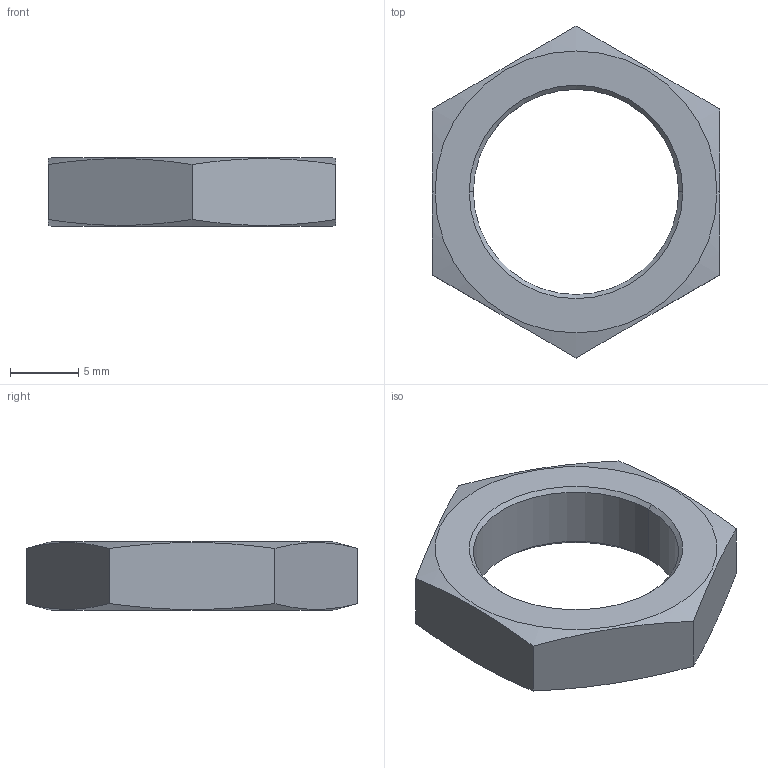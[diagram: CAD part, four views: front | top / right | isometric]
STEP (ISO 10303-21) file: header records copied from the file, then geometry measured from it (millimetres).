
FILE_DESCRIPTION (( 'STEP AP214' ), '1' );
FILE_NAME ('SC81.STEP', '2016-02-26T10:55:09', ( '' ), ( '' ), 'SwSTEP 2.0', 'SolidWorks 2012', '' );
FILE_SCHEMA (( 'AUTOMOTIVE_DESIGN' ));
Length unit declared in the file: millimetre
Products named in the file (1): SC81
Bounding box: 21 x 24.25 x 5 mm (x, y, z)
Volume: 1007.9 mm3; surface area: 967.3 mm2
Topology: 1 solids, 1 shells, 18 faces, 44 edges, 28 vertices
Faces by surface type: cone 8, plane 8, cylinder 2
Entity records: 638 total; most frequent: CARTESIAN_POINT 195, ORIENTED_EDGE 88, DIRECTION 78, EDGE_CURVE 44, AXIS2_PLACEMENT_3D 31, VERTEX_POINT 28, EDGE_LOOP 20, FACE_OUTER_BOUND 18
